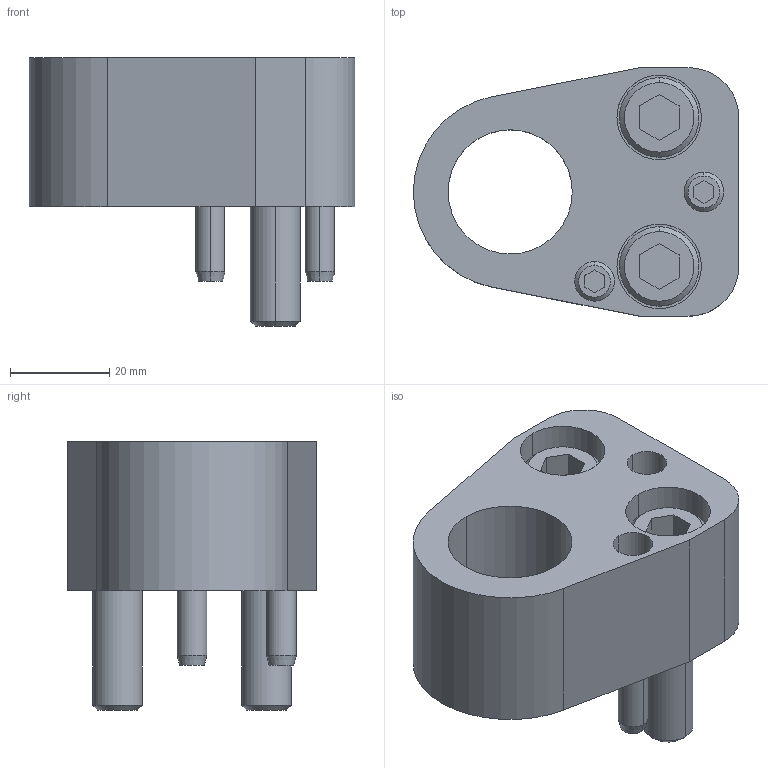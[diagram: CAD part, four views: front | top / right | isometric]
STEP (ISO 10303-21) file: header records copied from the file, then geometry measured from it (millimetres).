
FILE_DESCRIPTION(/* description */ (''),/* implementation_level */ '2;1');
FILE_NAME(/* name */ '3d_apar25_02870_r00.stp',/* time_stamp */ '2011-01-10T14:17:44+09:00',/* author */ ('MISUMI'),/* organization */ (''),/* preprocessor_version */ 'ST-DEVELOPER v11',/* originating_system */ 'UGS - NX 5.0',/* authorisation */ '');
FILE_SCHEMA (('CONFIG_CONTROL_DESIGN'));
Length unit declared in the file: millimetre
Products named in the file (1): 3d_apar25_02870_r00
Bounding box: 65.5 x 50 x 54 mm (x, y, z)
Volume: 64864.5 mm3; surface area: 22818.2 mm2
Topology: 7 solids, 7 shells, 135 faces, 292 edges, 186 vertices
Faces by surface type: plane 60, cylinder 49, cone 26
Entity records: 3816 total; most frequent: DIRECTION 684, CARTESIAN_POINT 662, ORIENTED_EDGE 584, EDGE_CURVE 292, AXIS2_PLACEMENT_3D 260, VERTEX_POINT 186, LINE 164, VECTOR 164
